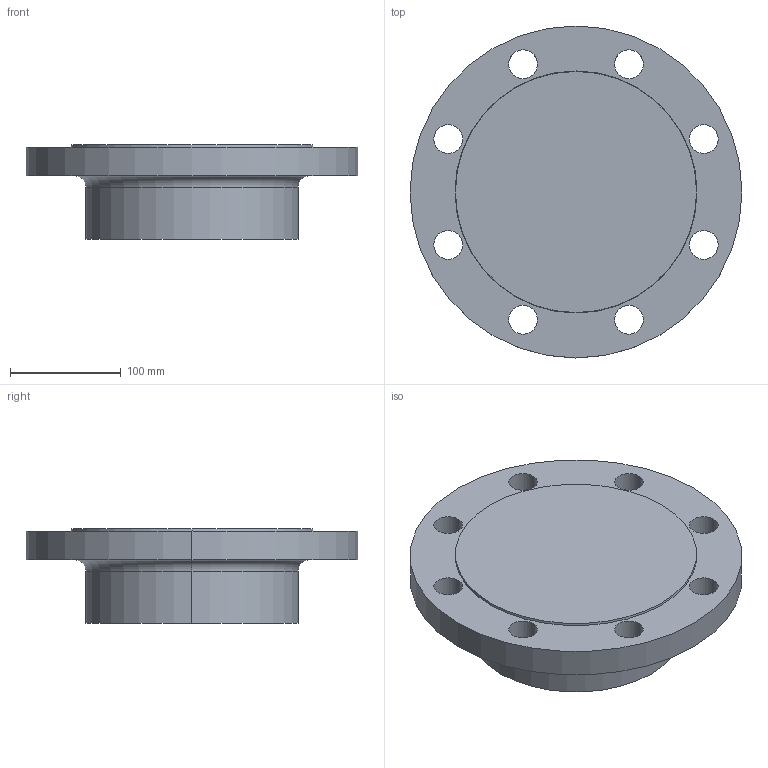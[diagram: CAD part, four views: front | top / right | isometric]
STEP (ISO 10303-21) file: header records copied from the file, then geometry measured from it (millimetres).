
FILE_DESCRIPTION (( 'STEP AP214' ), '1' );
FILE_NAME ('PN40 DN150 Type 21(i) - Type B Face.STEP', '2019-01-04T21:55:29', ( '' ), ( '' ), 'SwSTEP 2.0', 'SolidWorks 2019', '' );
FILE_SCHEMA (( 'AUTOMOTIVE_DESIGN' ));
Length unit declared in the file: millimetre
Products named in the file (1): PN40 DN150 Type 21(i) - Type B Face
Bounding box: 300 x 300 x 85 mm (x, y, z)
Volume: 3465852.7 mm3; surface area: 207359.3 mm2
Topology: 1 solids, 1 shells, 28 faces, 70 edges, 46 vertices
Faces by surface type: cylinder 20, plane 4, torus 2, cone 2
Entity records: 932 total; most frequent: DIRECTION 176, CARTESIAN_POINT 145, ORIENTED_EDGE 140, AXIS2_PLACEMENT_3D 77, EDGE_CURVE 70, CIRCLE 48, EDGE_LOOP 46, VERTEX_POINT 46
